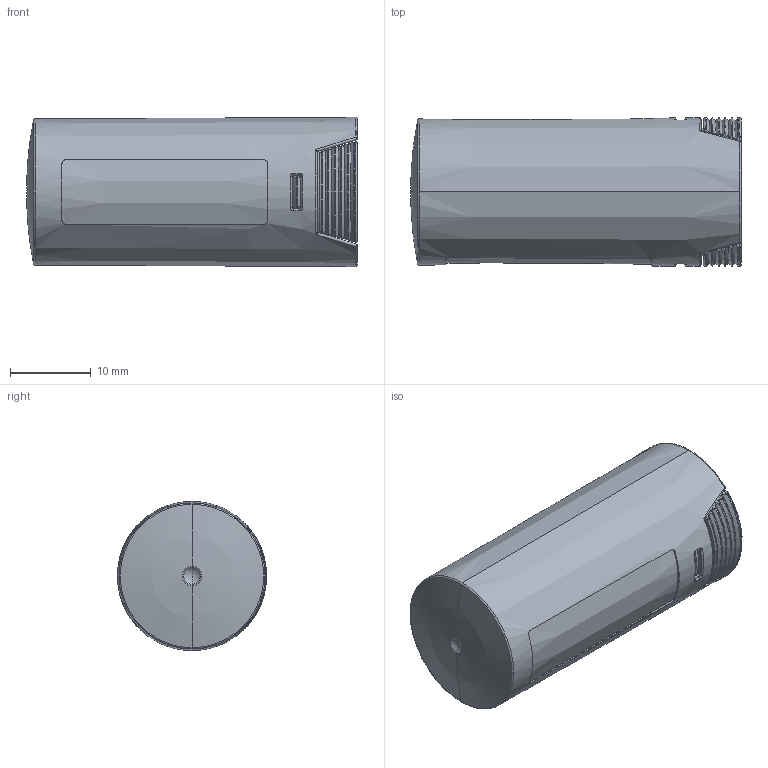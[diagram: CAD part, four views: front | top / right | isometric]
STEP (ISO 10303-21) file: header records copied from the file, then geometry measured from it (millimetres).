
FILE_DESCRIPTION(('Creo Elements/Direct Modeling STEP Export'),'2;1');
FILE_NAME('H13-0018-CE901_OA-QM6-600.stp','2014-06-05T14:19:31',(''),(''),'Creo Elements/Direct Modeling STEP processor for AP214 (Solid Model)','Creo Elements/Direct Modeling 18.1B 29-Sep-2012 (C) Parametric Technology GmbH','');
FILE_SCHEMA(('AUTOMOTIVE_DESIGN { 1 0 10303 214 1 1 1 1 }'));
Length unit declared in the file: millimetre
Products named in the file (5): M6_ネジ; OA-QM6-600_本体; M6_ナット; OA-QM6-600_カバー; OA-QM6-600
Assembly tree (4 placements, depth 2):
  OA-QM6-600
    OA-QM6-600_カバー
    M6_ナット
    OA-QM6-600_本体
    M6_ネジ
Bounding box: 40.98 x 18.44 x 18.5 mm (x, y, z)
Volume: 5604.7 mm3; surface area: 8609.1 mm2
Topology: 4 solids, 4 shells, 498 faces, 1266 edges, 766 vertices
Faces by surface type: bspline 214, cylinder 97, plane 82, torus 48, cone 43, sphere 14
Entity records: 33756 total; most frequent: CARTESIAN_POINT 24012, ORIENTED_EDGE 2508, DIRECTION 1256, EDGE_CURVE 1254, VERTEX_POINT 766, B_SPLINE_CURVE_WITH_KNOTS 566, AXIS2_PLACEMENT_3D 518, EDGE_LOOP 506
